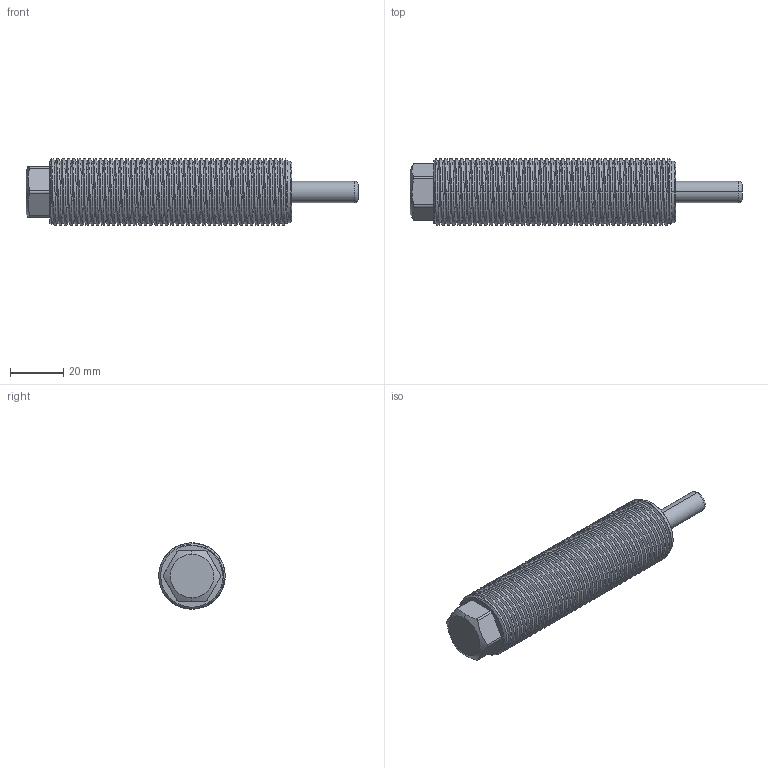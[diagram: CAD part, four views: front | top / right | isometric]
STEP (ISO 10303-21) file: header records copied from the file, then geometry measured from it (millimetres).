
FILE_DESCRIPTION (( '' ), '1' );
FILE_NAME ('IASS25-25-S.STEP', '', ( '' ), ( '' ), '', '', '' );
FILE_SCHEMA (( 'CONFIG_CONTROL_DESIGN' ));
Length unit declared in the file: millimetre
Products named in the file (1): KMS25-25
Bounding box: 125 x 24.97 x 25 mm (x, y, z)
Volume: 46596.8 mm3; surface area: 12878 mm2
Topology: 1 solids, 1 shells, 125 faces, 355 edges, 234 vertices
Faces by surface type: cylinder 100, plane 11, cone 10, torus 2, bspline 2
Entity records: 10330 total; most frequent: CARTESIAN_POINT 7566, ORIENTED_EDGE 710, DIRECTION 431, EDGE_CURVE 355, VERTEX_POINT 234, AXIS2_PLACEMENT_3D 156, EDGE_LOOP 127, FACE_OUTER_BOUND 125
